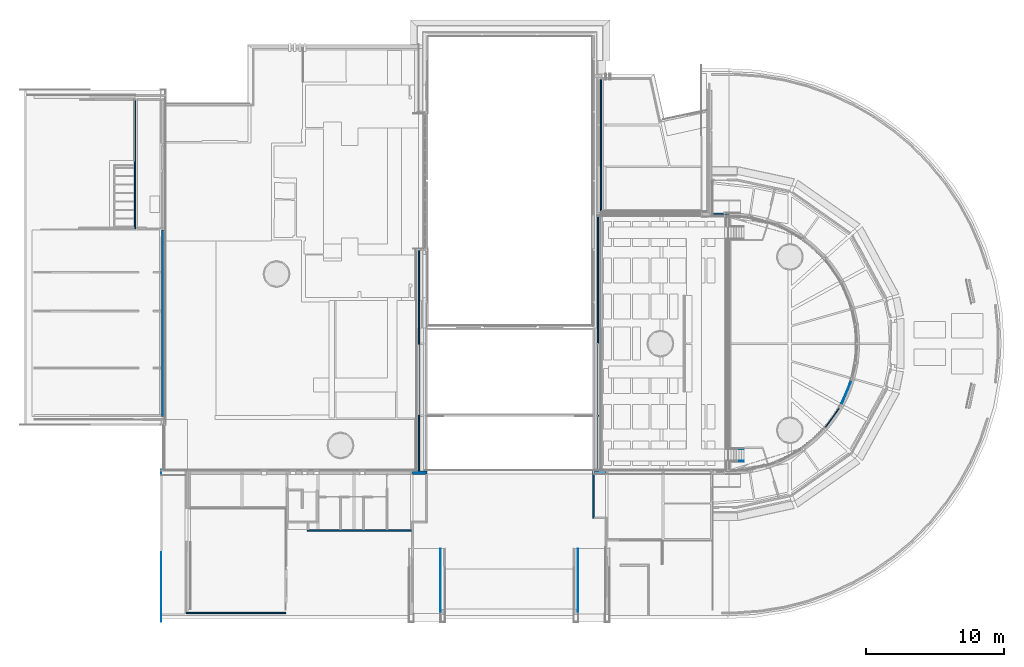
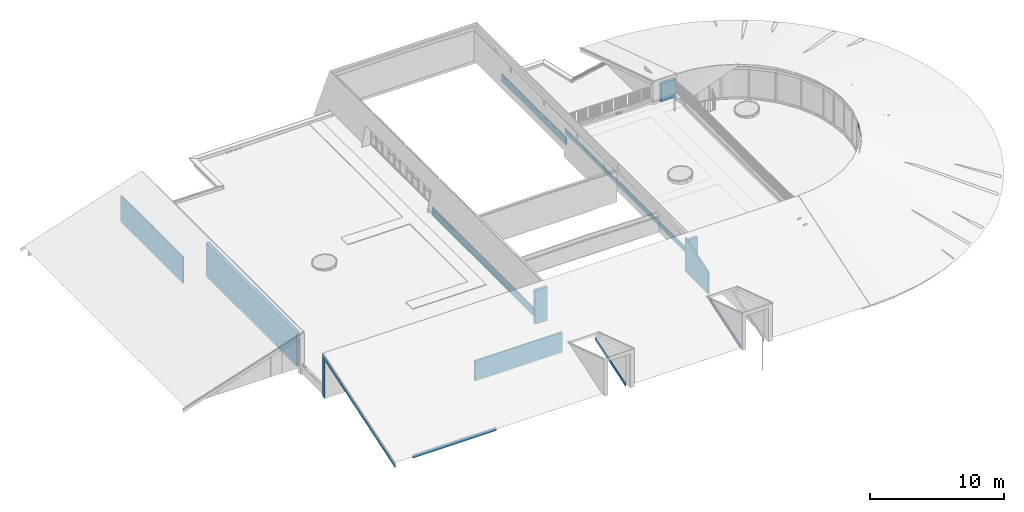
# One storey, part 42 of 66: 16 walls, 1 stair, 1 element without a shape of its own.
"""IFC2X3 building model written with IfcOpenShell, lengths in millimetres."""

from ifc_helpers import new_model, entity, si_unit, converted_unit, derived_unit, direction, frame, frame_2d, origin, place, context, subcontext, project, spatial, rectangle, extrude, faceted_brep, material, layer, layer_set, type_object, element, aggregate, save


model = new_model("IFC2X3")

# Units and contexts
model_context = context("Model", 3, precision=0.01, world=origin(), true_north=direction((6.12303176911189e-17, 1.0)))
body_context = subcontext(model_context, "Body", "Model", "MODEL_VIEW")
ifc_project = project(units=[si_unit("LENGTHUNIT", "METRE", prefix="MILLI"), si_unit("AREAUNIT", "SQUARE_METRE"), si_unit("VOLUMEUNIT", "CUBIC_METRE"), converted_unit("PLANEANGLEUNIT", "DEGREE", entity("IfcRatioMeasure", 0.0174532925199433), si_unit("PLANEANGLEUNIT", "RADIAN"), dimensions=[0, 0, 0, 0, 0, 0, 0]), si_unit("MASSUNIT", "GRAM", prefix="KILO"), derived_unit("MASSDENSITYUNIT", [(si_unit("MASSUNIT", "GRAM", prefix="KILO"), 1), (si_unit("LENGTHUNIT", "METRE"), -3)]), derived_unit("MOMENTOFINERTIAUNIT", [(si_unit("LENGTHUNIT", "METRE"), 4)]), si_unit("TIMEUNIT", "SECOND"), si_unit("FREQUENCYUNIT", "HERTZ"), si_unit("THERMODYNAMICTEMPERATUREUNIT", "DEGREE_CELSIUS"), derived_unit("THERMALTRANSMITTANCEUNIT", [(si_unit("MASSUNIT", "GRAM", prefix="KILO"), 1), (si_unit("THERMODYNAMICTEMPERATUREUNIT", "KELVIN"), -1), (si_unit("TIMEUNIT", "SECOND"), -3)]), derived_unit("VOLUMETRICFLOWRATEUNIT", [(si_unit("LENGTHUNIT", "METRE"), 3), (si_unit("TIMEUNIT", "SECOND"), -1)]), si_unit("ELECTRICCURRENTUNIT", "AMPERE"), si_unit("ELECTRICVOLTAGEUNIT", "VOLT"), si_unit("POWERUNIT", "WATT"), si_unit("FORCEUNIT", "NEWTON", prefix="KILO"), si_unit("ILLUMINANCEUNIT", "LUX"), si_unit("LUMINOUSFLUXUNIT", "LUMEN"), si_unit("LUMINOUSINTENSITYUNIT", "CANDELA"), derived_unit("USERDEFINED", [(si_unit("MASSUNIT", "GRAM", prefix="KILO"), -1), (si_unit("LENGTHUNIT", "METRE"), -2), (si_unit("TIMEUNIT", "SECOND"), 3), (si_unit("LUMINOUSFLUXUNIT", "LUMEN"), 1)]), derived_unit("LINEARVELOCITYUNIT", [(si_unit("LENGTHUNIT", "METRE"), 1), (si_unit("TIMEUNIT", "SECOND"), -1)]), si_unit("PRESSUREUNIT", "PASCAL"), derived_unit("USERDEFINED", [(si_unit("LENGTHUNIT", "METRE"), -2), (si_unit("MASSUNIT", "GRAM", prefix="KILO"), 1), (si_unit("TIMEUNIT", "SECOND"), -2)]), derived_unit("LINEARFORCEUNIT", [(si_unit("MASSUNIT", "GRAM", prefix="KILO"), 1), (si_unit("LENGTHUNIT", "METRE"), 1), (si_unit("TIMEUNIT", "SECOND"), -2), (si_unit("LENGTHUNIT", "METRE"), -1)]), derived_unit("PLANARFORCEUNIT", [(si_unit("MASSUNIT", "GRAM", prefix="KILO"), 1), (si_unit("LENGTHUNIT", "METRE"), 1), (si_unit("TIMEUNIT", "SECOND"), -2), (si_unit("LENGTHUNIT", "METRE"), -2)])], contexts=[model_context])

# Site, building, storey
site_placement = place(None, origin())
site = spatial("IfcSite", under=ifc_project, at=site_placement, Name="Default", CompositionType="ELEMENT")
building_placement = place(site_placement, origin())
building = spatial("IfcBuilding", under=site, at=building_placement, Name="-", CompositionType="ELEMENT")
storey_placement = place(building_placement, frame((0.0, 0.0, 3070.0)))
storey = spatial("IfcBuildingStorey", under=building, at=storey_placement, Name="01 eerste verdieping", CompositionType="ELEMENT", Elevation=3070.00000000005)

# Walls
ifc_material_1 = material(Name="NLRS_i4_hout_multiplex")
ifc_layer_1 = layer(ifc_material_1, 9.0)
ifc_material_2 = material(Name="NLRS_m1_isolatie")
ifc_layer_2 = layer(ifc_material_2, 89.0)
ifc_layer_3 = layer(ifc_material_1, 9.0)
ifc_layer_set_1 = layer_set([ifc_layer_1, ifc_layer_2, ifc_layer_3], Name="Basic Wall:NLRS_21_WA_HSB-wand_110mm")
wall_type_1 = type_object("IfcWallType", Name="Basic Wall:NLRS_21_WA_HSB-wand_110mm", PredefinedType="STANDARD", material=ifc_layer_set_1)
wall_1_placement = place(storey_placement, frame((11331.5104288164, 116.621222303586, -370.0)))
element("IfcWall", 1, at=wall_1_placement, inside=storey, type_object=wall_type_1, Name="Basic Wall:NLRS_21_WA_HSB-wand_110mm", ObjectType="Basic Wall:NLRS_21_WA_HSB-wand_110mm", context=body_context, shape_type="Brep", body=[
    faceted_brep([(0.0, -53.5, 0.0), (7194.18440552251, -53.5, 0.0), (7194.18440552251, -53.5, 237.614998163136), (4239.92796561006, -53.5, 237.614998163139), (4239.92796561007, -53.5, 331.761592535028), (4109.92796561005, -53.5, 331.761592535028), (4109.92796561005, -53.5, 237.61499816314), (0.0, -53.5, 237.614998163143), (7194.18440552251, 53.5, 0.0), (0.0, 53.5, 0.0), (0.0, 53.5, 272.381405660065), (4109.92796561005, 53.5, 272.38140566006), (4109.92796561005, 53.5, 331.761592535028), (4239.92796561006, 53.5, 331.761592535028), (4239.92796561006, 53.5, 272.38140566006), (7194.18440552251, 53.5, 272.381405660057)], [[[0, 1, 2, 3, 4, 5, 6, 7]], [[8, 9, 10, 11, 12, 13, 14, 15]], [[1, 0, 9, 8]], [[1, 8, 15, 2]], [[5, 4, 13, 12]], [[9, 0, 7, 10]], [[6, 11, 10, 7]], [[11, 6, 5, 12]], [[3, 14, 13, 4]], [[14, 3, 2, 15]]]),
])
wall_2_placement = place(storey_placement, frame((28189.9481330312, 10402.124095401, 0.0), z_axis=(0.0, 0.0, 1.0), x_axis=(0.0, 1.0, 0.0)))
element("IfcWall", 2, at=wall_2_placement, inside=storey, type_object=wall_type_1, Name="Basic Wall:NLRS_21_WA_HSB-wand_110mm", ObjectType="Basic Wall:NLRS_21_WA_HSB-wand_110mm", context=body_context, shape_type="Brep", body=[
    faceted_brep([(0.0, -53.5000000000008, 0.0), (15964.8527873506, -53.5000000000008, 0.0), (15964.8527873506, -53.5000000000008, 710.0), (0.0, -53.5000000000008, 710.0), (15964.8527873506, 53.5000000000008, 0.0), (0.0, 53.5000000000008, 0.0), (0.0, 53.5000000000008, 710.0), (10359.1961550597, 53.5000000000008, 710.0), (10359.1961550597, 53.5000000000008, 601.458528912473), (15964.8527873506, 53.5000000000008, 601.458528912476), (15964.8527873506, 41.1076752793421, 598.914749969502), (15964.8527873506, 18.3051482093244, 710.0), (10359.1961550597, 18.3051482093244, 710.0), (10359.1961550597, 41.1076752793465, 598.914749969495)], [[[0, 1, 2, 3]], [[4, 5, 6, 7, 8, 9]], [[1, 0, 5, 4]], [[2, 1, 4, 9, 10, 11]], [[3, 2, 11, 12, 7, 6]], [[0, 3, 6, 5]], [[10, 13, 12, 11]], [[12, 13, 8, 7]], [[13, 10, 9, 8]]]),
])
wall_3_placement = place(storey_placement, frame((41359.7062373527, 29124.7067824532, 100.0), z_axis=(0.0, 0.0, 1.0), x_axis=(0.0, 1.0, 0.0)))
element("IfcWall", 3, at=wall_3_placement, inside=storey, type_object=wall_type_1, Name="Basic Wall:NLRS_21_WA_HSB-wand_110mm", ObjectType="Basic Wall:NLRS_21_WA_HSB-wand_110mm", context=body_context, shape_type="Brep", body=[
    faceted_brep([(0.0, -53.5000000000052, 0.0), (9634.36317069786, -53.5000000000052, 0.0), (9634.36317069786, -53.5000000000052, 492.499999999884), (22.2885800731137, -53.5000000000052, 492.499999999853), (22.2885800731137, -53.5000000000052, 670.0), (0.0, -53.5000000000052, 670.0), (9634.36317069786, 53.4999999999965, 0.0), (0.0, 53.4999999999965, 0.0), (0.0, 53.4999999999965, 670.0), (9634.36317069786, 53.4999999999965, 670.0), (9634.36317069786, 53.4999999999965, 369.100000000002), (22.2885800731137, -10.3345466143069, 670.0), (9634.36317069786, -10.3345466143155, 670.0), (9634.36317069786, -46.7700639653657, 492.499999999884), (22.2885800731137, -46.7700639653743, 492.499999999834)], [[[0, 1, 2, 3, 4, 5]], [[6, 7, 8, 9, 10]], [[1, 0, 7, 6]], [[9, 8, 5, 4, 11, 12]], [[0, 5, 8, 7]], [[1, 6, 10, 9, 12, 13, 2]], [[11, 14, 13, 12]], [[14, 11, 4, 3]], [[13, 14, 3, 2]]]),
])
wall_4_placement = place(storey_placement, frame((41164.1645167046, 10402.124095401, 1390.0), z_axis=(0.0, 0.0, 1.0), x_axis=(0.0, 1.0, 0.0)))
element("IfcWall", 4, at=wall_4_placement, inside=storey, type_object=wall_type_1, Name="Basic Wall:NLRS_21_WA_HSB-wand_110mm", ObjectType="Basic Wall:NLRS_21_WA_HSB-wand_110mm", context=body_context, shape_type="Brep", body=[
    faceted_brep([(0.0, -53.5000000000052, 0.0), (18535.4323225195, -53.5000000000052, 0.0), (18535.4323225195, -53.5000000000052, 346.217207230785), (10359.1961550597, -53.5000000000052, 346.21720723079), (10359.1961550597, -53.5000000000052, 429.575794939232), (0.0, -53.5000000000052, 429.575794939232), (18535.4323225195, 53.4999999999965, 0.0), (0.0, 53.4999999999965, 0.0), (0.0, 53.4999999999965, 429.575794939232), (18535.4323225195, 53.4999999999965, 429.575794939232), (18535.4323225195, 9.57070224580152, 429.575794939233), (18535.4323225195, -9.39861383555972, 337.164492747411), (10359.1961550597, 9.57070224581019, 429.575794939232), (10359.1961550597, -9.39861383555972, 337.164492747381)], [[[0, 1, 2, 3, 4, 5]], [[6, 7, 8, 9]], [[1, 0, 7, 6]], [[6, 9, 10, 11, 2, 1]], [[9, 8, 5, 4, 12, 10]], [[0, 5, 8, 7]], [[12, 13, 11, 10]], [[13, 12, 4, 3]], [[11, 13, 3, 2]]]),
])
ifc_material_3 = material(Name="NLRS_f7_gipsplaat_gen")
ifc_layer_4 = layer(ifc_material_3, 12.5)
ifc_layer_5 = layer(ifc_material_2, 75.0)
ifc_layer_6 = layer(ifc_material_3, 12.5)
ifc_layer_set_2 = layer_set([ifc_layer_4, ifc_layer_5, ifc_layer_6], Name="Basic Wall:NLRS_21_WA_Metalstud 100mm")
wall_type_2 = type_object("IfcWallType", Name="Basic Wall:NLRS_21_WA_Metalstud 100mm", PredefinedType="STANDARD", material=ifc_layer_set_2)
wall_5_placement = place(storey_placement, frame((20106.892804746, 6068.12409540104, -18.0)))
element("IfcWall", 5, at=wall_5_placement, inside=storey, type_object=wall_type_2, Name="Basic Wall:NLRS_21_WA_Metalstud 100mm", ObjectType="Basic Wall:NLRS_21_WA_Metalstud 100mm", context=body_context, shape_type="Brep", body=[
    faceted_brep([(0.0, -50.0, 0.0), (1667.95342015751, -50.0, 0.0), (1767.9534201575, -50.0, 0.0), (7557.95342015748, -50.0, 0.0), (7557.95342015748, -50.0, 1820.51272275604), (3444.54558968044, -50.0, 1820.51272275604), (3444.54558968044, -50.0, 1870.73747593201), (3314.54558968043, -50.0, 1870.73747593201), (3314.54558968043, -50.0, 1820.51272275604), (1767.9534201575, -50.0, 1820.51272275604), (1667.95342015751, -50.0, 1820.51272275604), (0.0, -50.0, 1820.51272275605), (7557.95342015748, 50.0, 0.0), (0.0, 50.0, 0.0), (0.0, 50.0, 18.0), (0.0, 50.0, 1853.00469237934), (100.0, 50.0, 1853.00469237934), (3314.54558968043, 50.0, 1853.00469237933), (3314.54558968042, 50.0, 1870.73747593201), (3444.54558968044, 50.0, 1870.73747593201), (3444.54558968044, 50.0, 1853.00469237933), (7557.95342015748, 50.0, 1853.00469237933)], [[[0, 1, 2, 3, 4, 5, 6, 7, 8, 9, 10, 11]], [[12, 13, 14, 15, 16, 17, 18, 19, 20, 21]], [[13, 12, 3, 2, 1, 0]], [[3, 12, 21, 4]], [[7, 6, 19, 18]], [[13, 0, 11, 15, 14]], [[8, 17, 16, 15, 11, 10, 9]], [[17, 8, 7, 18]], [[5, 20, 19, 6]], [[20, 5, 4, 21]]]),
])
wall_6_placement = place(storey_placement, frame((40843.066810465, 10388.1212223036, 100.0), z_axis=(0.0, 0.0, 1.0), x_axis=(0.0, -1.0, 0.0)))
element("IfcWall", 6, at=wall_6_placement, inside=storey, type_object=wall_type_2, Name="Basic Wall:NLRS_21_WA_Metalstud 100mm", ObjectType="Basic Wall:NLRS_21_WA_Metalstud 100mm", context=body_context, shape_type="Brep", body=[
    faceted_brep([(0.0, -50.0, 0.0), (3430.0, -50.0, 0.0), (3430.0, -50.0, 2007.93630368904), (0.0, -50.0, 3122.4108617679), (3430.0, 50.0, 2007.93630368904), (3430.0, 50.0, 0.0), (3330.0, 50.0, 0.0), (240.997126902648, 50.0, 0.0), (240.997126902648, 50.0, 1042.0), (0.0, 50.0, 1042.0), (0.0, 50.0, 1290.0), (0.0, 50.0, 2904.16925207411), (0.0, 50.0, 2945.0), (0.0, 50.0, 3122.4108617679), (0.0, -47.4999999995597, 0.0), (240.997126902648, -47.499999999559, 0.0), (0.0, -47.4999999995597, 1042.0), (240.997126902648, -47.499999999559, 1042.0)], [[[0, 1, 2, 3]], [[4, 5, 6, 7, 8, 9, 10, 11, 12, 13]], [[2, 1, 5, 4]], [[1, 0, 14, 15, 7, 6, 5]], [[0, 3, 13, 12, 11, 10, 9, 16, 14]], [[15, 17, 8, 7]], [[8, 17, 16, 9]], [[17, 15, 14, 16]], [[3, 2, 4, 13]]]),
])
ifc_material_4 = material(Name="NLRS_i4_hout_multiplex zwart")
ifc_layer_7 = layer(ifc_material_4, 15.0)
ifc_layer_8 = layer(ifc_material_2, 75.0)
ifc_layer_9 = layer(ifc_material_3, 12.5)
ifc_layer_set_3 = layer_set([ifc_layer_7, ifc_layer_8, ifc_layer_9], Name="Basic Wall:NLRS_21_WA_Metalstud 100mm (achter sierbekleding)")
wall_type_3 = type_object("IfcWallType", Name="Basic Wall:NLRS_21_WA_Metalstud 100mm (achter sierbekleding)", PredefinedType="STANDARD", material=ifc_layer_set_3)
wall_7_placement = place(storey_placement, frame((7618.78026943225, 27928.4865767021, -18.0), z_axis=(0.0, 0.0, 1.0), x_axis=(0.0, 1.0, 0.0)))
element("IfcWall", 7, at=wall_7_placement, inside=storey, type_object=wall_type_3, Name="Basic Wall:NLRS_21_WA_Metalstud 100mm (achter sierbekleding)", ObjectType="Basic Wall:NLRS_21_WA_Metalstud 100mm (achter sierbekleding)", context=body_context, shape_type="Brep", body=[
    faceted_brep([(0.0, -51.2500000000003, 0.0), (9322.50000000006, -51.2500000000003, 0.0), (9322.50000000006, -51.2500000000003, 2256.78274017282), (9322.50000000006, -51.2500000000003, 2414.05403558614), (4777.40811182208, -51.2500000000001, 2414.05403558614), (4777.40811182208, -51.2500000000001, 2451.15283085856), (4607.40811182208, -51.2500000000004, 2451.15283085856), (4607.40811182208, -51.2500000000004, 2414.05403558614), (0.0, -51.2500000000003, 2414.05403558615), (9322.50000000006, 51.2500000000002, 0.0), (0.0, 51.2500000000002, 0.0), (0.0, 51.2500000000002, 2380.74976672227), (4607.40811182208, 51.2500000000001, 2380.74976672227), (4607.40811182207, 51.2500000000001, 2451.15283085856), (4777.40811182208, 51.2500000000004, 2451.15283085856), (4777.40811182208, 51.2500000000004, 2380.74976672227), (9322.50000000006, 51.2500000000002, 2380.74976672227)], [[[0, 1, 2, 3, 4, 5, 6, 7, 8]], [[9, 10, 11, 12, 13, 14, 15, 16]], [[1, 0, 10, 9]], [[6, 5, 14, 13]], [[10, 0, 8, 11]], [[1, 9, 16, 3, 2]], [[15, 4, 3, 16]], [[12, 7, 6, 13]], [[4, 15, 14, 5]], [[7, 12, 11, 8]]]),
])
ifc_material_5 = material(Name="h7_zink zwart")
ifc_layer_10 = layer(ifc_material_5, 3.0)
ifc_layer_set_4 = layer_set([ifc_layer_10], Name="Basic Wall:NLRS_42_WA_beplating_zijkant hellend dak")
wall_type_4 = type_object("IfcWallType", Name="Basic Wall:NLRS_42_WA_beplating_zijkant hellend dak", PredefinedType="STANDARD", material=ifc_layer_set_4)
wall_8_placement = place(storey_placement, frame((9509.49999999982, 10464.1240954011, -370.0), z_axis=(0.0, 0.0, 1.0), x_axis=(0.0, -1.0, 0.0)))
element("IfcWall", 8, at=wall_8_placement, inside=storey, type_object=wall_type_4, Name="Basic Wall:NLRS_42_WA_beplating_zijkant hellend dak", ObjectType="Basic Wall:NLRS_42_WA_beplating_zijkant hellend dak", context=body_context, shape_type="Brep", body=[
    faceted_brep([(0.0, -1.50000000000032, 0.0), (371.0, -1.4999999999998, 0.0), (371.0, -1.4999999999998, 3462.99526696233), (10880.2446489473, -1.50000000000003, 50.4148069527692), (10980.2406697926, -1.50000000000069, 358.170914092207), (0.0, -1.50000000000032, 3922.22288154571), (0.0, 1.50000000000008, 0.0), (0.0, 1.50000000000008, 3922.22288154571), (10980.2406697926, 1.49999999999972, 358.170914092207), (10880.2446489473, 1.50000000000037, 50.4148069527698), (371.0, 1.5000000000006, 3462.99526696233), (371.0, 1.5000000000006, 0.0)], [[[0, 1, 2, 3, 4, 5]], [[6, 7, 8, 9, 10, 11]], [[1, 0, 6, 11]], [[0, 5, 7, 6]], [[2, 1, 11, 10]], [[3, 2, 10, 9]], [[4, 3, 9, 8]], [[5, 4, 8, 7]]]),
])
ifc_layer_11 = layer(ifc_material_1, 10.0)
ifc_layer_12 = layer(ifc_material_2, 235.0)
ifc_layer_13 = layer(ifc_material_1, 10.0)
ifc_layer_14 = layer(ifc_material_3, 12.5)
ifc_layer_set_5 = layer_set([ifc_layer_11, ifc_layer_12, ifc_layer_13, ifc_layer_14], Name="Basic Wall:NLRS_21_WA_HSB-wand_268mm")
wall_type_5 = type_object("IfcWallType", Name="Basic Wall:NLRS_21_WA_HSB-wand_268mm", PredefinedType="STANDARD", material=ifc_layer_set_5)
wall_9_placement = place(storey_placement, frame((50646.5626620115, 28951.2453625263, 100.0), z_axis=(0.0, 0.0, 1.0), x_axis=(-1.0, 0.0, 0.0)))
element("IfcWall", 9, at=wall_9_placement, inside=storey, type_object=wall_type_5, Name="Basic Wall:NLRS_21_WA_HSB-wand_268mm", ObjectType="Basic Wall:NLRS_21_WA_HSB-wand_268mm", context=body_context, shape_type="Brep", body=[
    faceted_brep([(0.0, -133.75, 0.0), (117.442271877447, -133.75, 0.0), (117.442271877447, -133.75, 1100.0), (117.442271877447, -133.75, 1182.0), (1164.94227187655, -133.75, 1182.0), (1227.44227187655, -133.75, 1182.0), (1275.0, -133.75, 1182.0), (1275.0, -133.75, 2945.0), (0.0, -133.75, 2945.0), (117.442271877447, 133.75, 0.0), (0.0, 133.75, 0.0), (0.0, 133.75, 2945.0), (1275.0, 133.75, 2945.0), (1275.0, 133.75, 1290.0), (132.442271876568, 133.75, 1290.0), (132.442271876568, 133.75, 1182.0), (117.442271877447, 133.75, 1182.0), (117.442271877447, -111.250000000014, 0.0), (132.442271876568, -5.0867225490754, 1182.0), (1275.0, -5.0867225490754, 1182.0), (1275.0, -5.0867225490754, 1290.0), (132.442271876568, -5.0867225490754, 1290.0)], [[[0, 1, 2, 3, 4, 5, 6, 7, 8]], [[9, 10, 11, 12, 13, 14, 15, 16]], [[1, 0, 10, 9, 17]], [[3, 2, 1, 17, 9, 16]], [[6, 5, 4, 3, 16, 15, 18, 19]], [[7, 6, 19, 20, 13, 12]], [[8, 7, 12, 11]], [[0, 8, 11, 10]], [[20, 21, 14, 13]], [[21, 18, 15, 14]], [[18, 21, 20, 19]]]),
])
ifc_layer_15 = layer(ifc_material_1, 10.0)
ifc_layer_16 = layer(ifc_material_2, 235.0)
ifc_layer_17 = layer(ifc_material_1, 10.0)
ifc_layer_set_6 = layer_set([ifc_layer_15, ifc_layer_16, ifc_layer_17], Name="Basic Wall:NLRS_21_WA_HSB-wand_268mm (zonder gips)")
wall_type_6 = type_object("IfcWallType", Name="Basic Wall:NLRS_21_WA_HSB-wand_268mm (zonder gips)", PredefinedType="STANDARD", material=ifc_layer_set_6)
wall_10_placement = place(storey_placement, frame((40843.066810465, 10274.624095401, 1390.0)))
element("IfcWall", 10, at=wall_10_placement, inside=storey, type_object=wall_type_6, Name="Basic Wall:NLRS_21_WA_HSB-wand_268mm (zonder gips)", ObjectType="Basic Wall:NLRS_21_WA_HSB-wand_268mm (zonder gips)", context=body_context, shape_type="Brep", body=[
    faceted_brep([(894.219106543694, -127.500000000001, 0.0), (894.219106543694, -127.500000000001, 1655.0), (50.0, -127.500000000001, 1655.0), (50.0, -127.500000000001, 0.0), (894.219106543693, 127.499999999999, 1655.0), (894.219106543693, 127.499999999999, 0.0), (64.0, 127.499999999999, 0.0), (64.0, 127.499999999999, 1614.16925207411), (0.0, 127.499999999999, 1614.16925207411), (0.0, 127.499999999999, 1655.0), (50.0, 113.497126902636, 0.0), (64.0, 113.497126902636, 0.0), (0.0, 113.497126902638, 1655.0), (50.0, 113.497126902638, 1655.0), (0.0, 113.497126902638, 1614.16925207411), (50.0, 113.497126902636, 1614.16925207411), (64.0, 113.497126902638, 1614.16925207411)], [[[0, 1, 2, 3]], [[4, 5, 6, 7, 8, 9]], [[5, 0, 3, 10, 11, 6]], [[1, 0, 5, 4]], [[4, 9, 12, 13, 2, 1]], [[12, 9, 8, 14]], [[3, 2, 13, 15, 10]], [[13, 12, 14, 15]], [[11, 16, 7, 6]], [[15, 16, 11, 10]], [[16, 15, 14, 8, 7]]]),
])
wall_11_placement = place(storey_placement, frame((27701.6642291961, 10274.624095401, 0.0)))
element("IfcWall", 11, at=wall_11_placement, inside=storey, type_object=wall_type_6, Name="Basic Wall:NLRS_21_WA_HSB-wand_268mm (zonder gips)", ObjectType="Basic Wall:NLRS_21_WA_HSB-wand_268mm (zonder gips)", context=body_context, shape_type="Brep", body=[
    faceted_brep([(0.0, -127.500000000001, 3045.0), (0.0, -127.500000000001, 0.0), (979.03060514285, -127.499999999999, 0.0), (979.03060514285, -127.499999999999, 3045.0), (0.0, 127.499999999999, 0.0), (0.0, 127.499999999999, 3045.0), (1079.03060514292, 127.499999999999, 3045.0), (1079.03060514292, 127.499999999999, 2860.0), (970.030605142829, 127.500000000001, 2860.0), (970.030605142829, 127.500000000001, 0.0), (1079.03060514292, -115.0, 3045.0), (1079.03060514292, -115.0, 0.0), (1079.03060514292, 82.104266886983, 0.0), (1079.03060514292, 110.867768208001, 0.0), (1079.03060514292, 110.867768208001, 2860.0), (970.03060514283, 110.867768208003, 0.0), (979.03060514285, -115.0, 0.0), (979.03060514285, -115.0, 3045.0), (970.03060514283, 110.867768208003, 2860.0)], [[[0, 1, 2, 3]], [[4, 5, 6, 7, 8, 9]], [[10, 11, 12, 13, 14, 7, 6]], [[1, 4, 9, 15, 13, 12, 11, 16, 2]], [[1, 0, 5, 4]], [[6, 5, 0, 3, 17, 10]], [[3, 2, 16, 17]], [[11, 10, 17, 16]], [[18, 15, 9, 8]], [[14, 18, 8, 7]], [[15, 18, 14, 13]]]),
])
wall_12_placement = place(storey_placement, frame((9658.50000000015, 27858.3956064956, 0.0), z_axis=(0.0, 0.0, 1.0), x_axis=(0.0, -1.0, 0.0)))
element("IfcWall", 12, at=wall_12_placement, inside=storey, type_object=wall_type_6, Name="Basic Wall:NLRS_21_WA_HSB-wand_268mm (zonder gips)", ObjectType="Basic Wall:NLRS_21_WA_HSB-wand_268mm (zonder gips)", context=body_context, shape_type="Brep", body=[
    faceted_brep([(0.0, -127.5, 0.0), (3022.2042860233, -127.499999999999, 0.0), (3120.2042860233, -127.5, 0.0), (5836.23791986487, -127.499999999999, 0.0), (5934.23791986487, -127.499999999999, 0.0), (9961.57535603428, -127.499999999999, 0.0), (10059.5753560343, -127.499999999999, 0.0), (13384.642070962, -127.499999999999, 0.0), (13528.5753560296, -127.499999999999, 0.0), (13528.5753560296, -127.499999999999, 3000.71975514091), (13384.642070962, -127.499999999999, 3000.71975514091), (2.40902979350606, -127.5, 3000.7197551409), (2.40902979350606, -127.5, 3101.06372643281), (0.0, -127.5, 3101.06372643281), (13528.5753560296, 127.500000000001, 0.0), (0.0, 127.500000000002, 0.0), (0.0, 127.500000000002, 3101.06372643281), (13528.5753560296, 127.500000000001, 3101.06372643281), (13528.5753560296, 121.24999999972, 3101.06372643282), (13528.5753560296, 121.24999999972, 3081.54352957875), (2.40902979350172, 121.249999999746, 3101.06372643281), (2.40902979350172, 121.249999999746, 3081.54352957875)], [[[0, 1, 2, 3, 4, 5, 6, 7, 8, 9, 10, 11, 12, 13]], [[14, 15, 16, 17]], [[8, 7, 6, 5, 4, 3, 2, 1, 0, 15, 14]], [[14, 17, 18, 19, 9, 8]], [[17, 16, 13, 12, 20, 18]], [[0, 13, 16, 15]], [[19, 21, 11, 10, 9]], [[11, 21, 20, 12]], [[21, 19, 18, 20]]]),
])
ifc_material_6 = material(Name="NLRS_n7_isolatie PIR_gen")
ifc_layer_18 = layer(ifc_material_6, 60.0)
ifc_layer_set_7 = layer_set([ifc_layer_18], Name="Basic Wall:NLRS_22_WA_LB_isolatie PIR 60mm")
wall_type_7 = type_object("IfcWallType", Name="Basic Wall:NLRS_22_WA_LB_isolatie PIR 60mm", PredefinedType="STANDARD", material=ifc_layer_set_7)
wall_13_placement = place(storey_placement, frame((59480.1891637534, 16857.9186625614, 3045.0), z_axis=(0.0, 0.0, 1.0), x_axis=(-0.385302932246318, -0.922790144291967, 0.0)))
element("IfcWall", 13, at=wall_13_placement, inside=storey, type_object=wall_type_7, Name="Basic Wall:NLRS_22_WA_LB_isolatie PIR 60mm", ObjectType="Basic Wall:NLRS_22_WA_LB_isolatie PIR 60mm", context=body_context, shape_type="Brep", body=[
    faceted_brep([(0.0, -30.0, 0.0), (1716.8736016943, -30.0, 0.0), (1716.8736016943, -30.0, 187.0), (1612.46929068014, -30.0, 187.0), (1612.46929068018, -30.0, 240.0), (104.404311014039, -30.0, 240.0), (104.404311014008, -30.0, 187.0), (0.0, -30.0, 187.0), (1716.8736016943, 30.0, 187.0), (1716.8736016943, 30.0, 0.0), (0.0, 30.0, 0.0), (0.0, 30.0, 187.0), (707.468265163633, -0.3356094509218, 240.0), (1009.40385747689, -0.335585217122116, 187.0)], [[[0, 1, 2, 3, 4, 5, 6, 7]], [[8, 9, 10, 11]], [[1, 0, 10, 9]], [[2, 1, 9, 8]], [[4, 12, 5]], [[0, 7, 11, 10]], [[3, 2, 8, 11, 7, 6, 13]], [[6, 5, 12]], [[6, 12, 13]], [[13, 4, 3]], [[4, 13, 12]]]),
])
wall_14_placement = place(storey_placement, frame((58617.5532611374, 14914.6122727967, 3045.0), z_axis=(0.0, 0.0, 1.0), x_axis=(-0.582664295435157, -0.812712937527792, 0.0)))
element("IfcWall", 14, at=wall_14_placement, inside=storey, type_object=wall_type_7, Name="Basic Wall:NLRS_22_WA_LB_isolatie PIR 60mm", ObjectType="Basic Wall:NLRS_22_WA_LB_isolatie PIR 60mm", context=body_context, shape_type="Brep", body=[
    faceted_brep([(0.0, -30.0, 0.0), (1646.9688972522, -30.0, 0.0), (1646.9688972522, -30.0, 187.0), (1537.60576758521, -30.0, 187.0), (1537.60576758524, -30.0, 240.0), (109.363129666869, -30.0, 240.0), (109.363129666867, -30.0, 187.0), (0.0, -30.0, 187.0), (1646.9688972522, 30.0, 187.0), (1646.9688972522, 30.0, 0.0), (0.0, 30.0, 0.0), (0.0, 30.0, 187.0), (680.522582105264, -3.39734166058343, 240.0), (966.442211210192, -3.39727798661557, 187.0)], [[[0, 1, 2, 3, 4, 5, 6, 7]], [[8, 9, 10, 11]], [[1, 0, 10, 9]], [[2, 1, 9, 8]], [[5, 4, 12]], [[0, 7, 11, 10]], [[3, 2, 8, 11, 7, 6, 13]], [[6, 5, 12]], [[6, 12, 13]], [[13, 4, 3]], [[4, 13, 12]]]),
])
ifc_layer_19 = layer(ifc_material_3, 12.5)
ifc_layer_20 = layer(ifc_material_1, 10.0)
ifc_layer_set_8 = layer_set([ifc_layer_19, ifc_layer_20], Name="Basic Wall:NLRS_41_WA_Bekleding kolommen")
wall_type_8 = type_object("IfcWallType", Name="Basic Wall:NLRS_41_WA_Bekleding kolommen", PredefinedType="STANDARD", material=ifc_layer_set_8)
wall_15_placement = place(storey_placement, frame((29758.0962249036, 170.370355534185, -313.47149785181), z_axis=(0.0, 0.0, 1.0), x_axis=(0.0, 1.0, 0.0)))
element("IfcWall", 15, at=wall_15_placement, inside=storey, type_object=wall_type_8, Name="Basic Wall:NLRS_41_WA_Bekleding kolommen", ObjectType="Basic Wall:NLRS_41_WA_Bekleding kolommen", context=body_context, shape_type="Brep", body=[
    faceted_brep([(111.927909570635, -11.2499999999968, 0.0), (4605.24852618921, -11.2499999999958, 1462.99699915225), (4605.24852618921, -11.2499999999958, 1711.43565038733), (4489.91621820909, -11.2499999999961, 1748.90938886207), (0.0, -11.2499999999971, 290.175206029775), (0.0, -11.2499999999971, 0.0), (111.927909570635, 11.2500000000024, 0.0), (0.0, 11.2500000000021, 0.0), (0.0, 11.2500000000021, 290.175206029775), (4489.91621820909, 11.2500000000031, 1748.90938886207), (4605.24852618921, 11.2500000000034, 1711.43565038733), (4605.24852618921, 11.2500000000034, 1462.99699915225)], [[[0, 1, 2, 3, 4, 5]], [[6, 7, 8, 9, 10, 11]], [[0, 5, 7, 6]], [[4, 3, 9, 8]], [[5, 4, 8, 7]], [[2, 1, 11, 10]], [[3, 2, 10, 9]], [[1, 0, 6, 11]]]),
])
wall_16_placement = place(storey_placement, frame((39704.0359170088, 178.621222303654, -313.47149785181), z_axis=(0.0, 0.0, 1.0), x_axis=(0.0, 1.0, 0.0)))
element("IfcWall", 16, at=wall_16_placement, inside=storey, type_object=wall_type_8, Name="Basic Wall:NLRS_41_WA_Bekleding kolommen", ObjectType="Basic Wall:NLRS_41_WA_Bekleding kolommen", context=body_context, shape_type="Brep", body=[
    faceted_brep([(100.142766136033, -11.2500000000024, 0.0), (4596.99765941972, -11.2500000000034, 1461.11672592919), (4596.99765941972, -11.2500000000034, 1712.39624076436), (4483.14361290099, -11.2500000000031, 1749.38966297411), (0.0, -11.2500000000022, 292.855839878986), (0.0, -11.2500000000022, 0.0), (100.142766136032, 11.2500000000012, 0.0), (0.0, 11.2500000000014, 0.0), (0.0, 11.2500000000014, 292.855839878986), (4483.14361290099, 11.2500000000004, 1749.38966297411), (4596.99765941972, 11.2500000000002, 1712.39624076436), (4596.99765941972, 11.2500000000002, 1461.11672592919)], [[[0, 1, 2, 3, 4, 5]], [[6, 7, 8, 9, 10, 11]], [[0, 5, 7, 6]], [[1, 0, 6, 11]], [[4, 3, 9, 8]], [[5, 4, 8, 7]], [[2, 1, 11, 10]], [[3, 2, 10, 9]]]),
])

# Stairs
stair_1_placement = place(storey_placement, origin())
stair_1 = element("IfcStair", 17, at=stair_1_placement, inside=storey, Name="Ondersteuning trap 1e verdieping buiten1:Ondersteuning trap 1e verdieping buiten", ObjectType="Ondersteuning trap 1e verdieping buiten1:Ondersteuning trap 1e verdieping buiten", ShapeType="NOTDEFINED")
stair_2_placement = place(stair_1_placement, origin())
stair_2 = element("IfcStair", 18, at=stair_2_placement, Name="Ondersteuning trap 1e verdieping buiten1:Ondersteuning trap 1e verdieping buiten", ObjectType="Ondersteuning trap 1e verdieping buiten1:Ondersteuning trap 1e verdieping buiten", ShapeType="NOTDEFINED", context=body_context, shape_type="SweptSolid", body=[
    extrude(rectangle(XDim=330.000000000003, YDim=50.0000000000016, at=frame_2d((-4.33431068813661e-12, 0.0), x_axis=(1.0, 0.0))), frame((51566.6203901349, 11105.9965964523, 100.0)), (0.0, 0.0, 1.0), 146.0),
    extrude(rectangle(XDim=330.000000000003, YDim=50.0000000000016, at=frame_2d((-4.33431068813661e-12, 0.0), x_axis=(1.0, 0.0))), frame((51566.6203901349, 12005.9965964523, 100.0)), (0.0, 0.0, 1.0), 146.0),
])
aggregate(stair_1, [stair_2])

save(model, "model.ifc")
